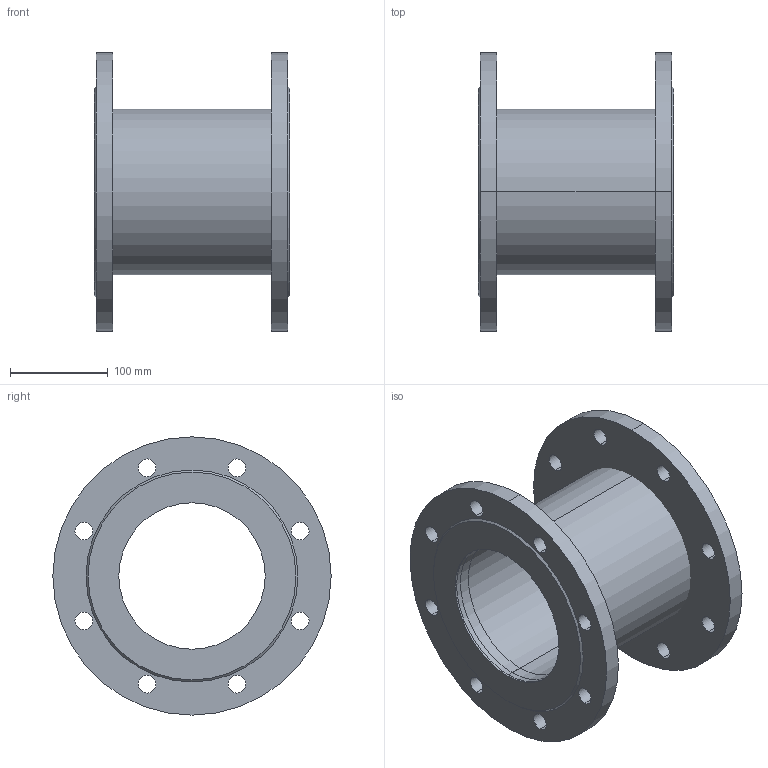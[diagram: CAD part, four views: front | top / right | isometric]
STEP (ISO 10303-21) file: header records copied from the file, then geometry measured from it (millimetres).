
FILE_DESCRIPTION(('STEP AP214'),'1');
FILE_NAME('U:/VDI-Daten/8500/8500_PN16_DN150_L200.STP','2012-06-12T15:14:36',(' '),(' '),'Spatial InterOp 3D',' ',' ');
FILE_SCHEMA(('automotive_design'));
Length unit declared in the file: millimetre
Products named in the file (5): 3D-Objekt
Bounding box: 200 x 285 x 285 mm (x, y, z)
Volume: 2503399.6 mm3; surface area: 514480.5 mm2
Topology: 5 solids, 5 shells, 62 faces, 156 edges, 104 vertices
Faces by surface type: cylinder 48, plane 10, cone 4
Entity records: 2621 total; most frequent: DIRECTION 394, CARTESIAN_POINT 327, ORIENTED_EDGE 312, AXIS2_PLACEMENT_3D 171, EDGE_CURVE 156, EDGE_LOOP 104, VERTEX_POINT 104, CIRCLE 104
